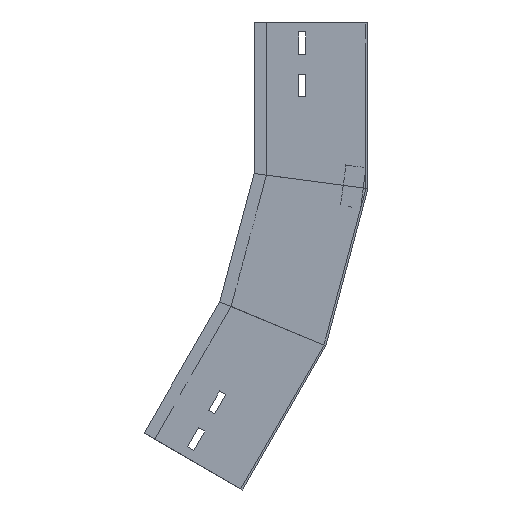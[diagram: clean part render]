
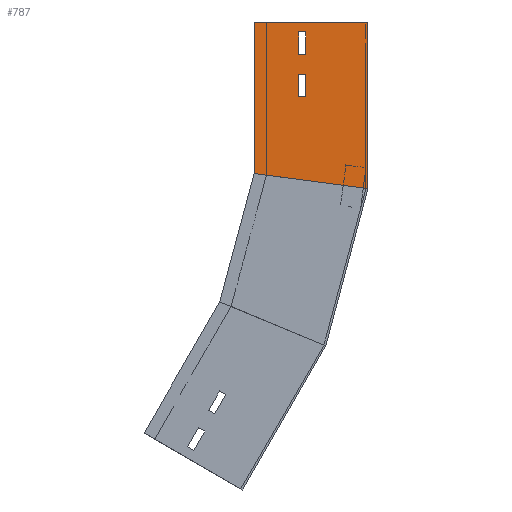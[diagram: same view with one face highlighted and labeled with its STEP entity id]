
A CAD part, left-side view. The second image highlights one B-rep face of the part: STEP entity #787.
In plain terms, the highlighted planar face has unit normal (-1, 0, 0) as drawn and (1, 0, 0) by its records, which use the part's own axes.
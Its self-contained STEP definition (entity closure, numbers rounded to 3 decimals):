
#4 = EDGE_CURVE ( 'NONE', #1121, #889, #846, .T. ) ;
#26 = VERTEX_POINT ( 'NONE', #1400 ) ;
#31 = CARTESIAN_POINT ( 'NONE',  ( 0., 139.072, -263.767 ) ) ;
#41 = LINE ( 'NONE', #31, #692 ) ;
#47 = EDGE_LOOP ( 'NONE', ( #1108, #472, #727, #397 ) ) ;
#97 = CARTESIAN_POINT ( 'NONE',  ( 0., 172.287, -423.298 ) ) ;
#107 = VECTOR ( 'NONE', #239, 1000. ) ;
#113 = VECTOR ( 'NONE', #869, 1000. ) ;
#119 = EDGE_CURVE ( 'NONE', #1042, #993, #1449, .T. ) ;
#125 = FACE_OUTER_BOUND ( 'NONE', #952, .T. ) ;
#126 = AXIS2_PLACEMENT_3D ( 'NONE', #565, #449, #673 ) ;
#129 = VERTEX_POINT ( 'NONE', #1433 ) ;
#132 = ORIENTED_EDGE ( 'NONE', *, *, #1248, .F. ) ;
#175 = LINE ( 'NONE', #1472, #113 ) ;
#196 = EDGE_CURVE ( 'NONE', #26, #1422, #281, .T. ) ;
#206 = VECTOR ( 'NONE', #1437, 1000. ) ;
#219 = EDGE_CURVE ( 'NONE', #500, #1042, #852, .T. ) ;
#226 = CARTESIAN_POINT ( 'NONE',  ( 0., 178.349, -419.798 ) ) ;
#228 = VECTOR ( 'NONE', #418, 1000. ) ;
#232 = FACE_BOUND ( 'NONE', #47, .T. ) ;
#238 = DIRECTION ( 'NONE',  ( 0., -0.866, -0.5 ) ) ;
#239 = DIRECTION ( 'NONE',  ( 0., 0.866, 0.5 ) ) ;
#256 = CARTESIAN_POINT ( 'NONE',  ( 0., 151.452, -387.211 ) ) ;
#262 = DIRECTION ( 'NONE',  ( 0., 0.5, -0.866 ) ) ;
#281 = LINE ( 'NONE', #1321, #206 ) ;
#288 = CARTESIAN_POINT ( 'NONE',  ( 0., 41.644, -320.017 ) ) ;
#299 = DIRECTION ( 'NONE',  ( 0., 0.5, -0.866 ) ) ;
#300 = ORIENTED_EDGE ( 'NONE', *, *, #555, .F. ) ;
#320 = DIRECTION ( 'NONE',  ( 0., 0.866, 0.5 ) ) ;
#349 = LINE ( 'NONE', #542, #487 ) ;
#358 = VECTOR ( 'NONE', #299, 1000. ) ;
#371 = ORIENTED_EDGE ( 'NONE', *, *, #1076, .F. ) ;
#397 = ORIENTED_EDGE ( 'NONE', *, *, #4, .F. ) ;
#400 = VERTEX_POINT ( 'NONE', #1487 ) ;
#405 = EDGE_CURVE ( 'NONE', #1215, #26, #567, .T. ) ;
#409 = CARTESIAN_POINT ( 'NONE',  ( 0., 151.452, -387.211 ) ) ;
#418 = DIRECTION ( 'NONE',  ( 0., 0.5, -0.866 ) ) ;
#430 = VECTOR ( 'NONE', #898, 1000. ) ;
#449 = DIRECTION ( 'NONE',  ( -1., 0., 0. ) ) ;
#472 = ORIENTED_EDGE ( 'NONE', *, *, #1415, .F. ) ;
#487 = VECTOR ( 'NONE', #238, 1000. ) ;
#500 = VERTEX_POINT ( 'NONE', #611 ) ;
#504 = ORIENTED_EDGE ( 'NONE', *, *, #219, .T. ) ;
#542 = CARTESIAN_POINT ( 'NONE',  ( 0., 167.349, -400.745 ) ) ;
#555 = EDGE_CURVE ( 'NONE', #500, #1186, #41, .T. ) ;
#565 = CARTESIAN_POINT ( 'NONE',  ( 0., 41.644, -320.017 ) ) ;
#567 = LINE ( 'NONE', #226, #808 ) ;
#611 = CARTESIAN_POINT ( 'NONE',  ( 0., 146.477, -276.594 ) ) ;
#627 = DIRECTION ( 'NONE',  ( 0., -0.924, -0.383 ) ) ;
#629 = CARTESIAN_POINT ( 'NONE',  ( 0., 172.287, -423.298 ) ) ;
#630 = ORIENTED_EDGE ( 'NONE', *, *, #196, .F. ) ;
#649 = VECTOR ( 'NONE', #1315, 1000. ) ;
#662 = EDGE_CURVE ( 'NONE', #889, #1412, #1355, .T. ) ;
#668 = DIRECTION ( 'NONE',  ( 0., 0.866, 0.5 ) ) ;
#673 = DIRECTION ( 'NONE',  ( 0., 0., 1. ) ) ;
#692 = VECTOR ( 'NONE', #262, 1000. ) ;
#725 = CARTESIAN_POINT ( 'NONE',  ( 0., 140.452, -368.158 ) ) ;
#727 = ORIENTED_EDGE ( 'NONE', *, *, #662, .F. ) ;
#744 = LINE ( 'NONE', #887, #1023 ) ;
#747 = CARTESIAN_POINT ( 'NONE',  ( 0., 146.514, -364.658 ) ) ;
#753 = CARTESIAN_POINT ( 'NONE',  ( 0., 41.644, -320.017 ) ) ;
#768 = CARTESIAN_POINT ( 'NONE',  ( 0., 146.514, -364.658 ) ) ;
#783 = CARTESIAN_POINT ( 'NONE',  ( 0., 123.944, -462.565 ) ) ;
#787 = ADVANCED_FACE ( 'NONE', ( #1376, #232, #125 ), #1054, .F. ) ;
#808 = VECTOR ( 'NONE', #668, 1000. ) ;
#813 = EDGE_CURVE ( 'NONE', #993, #1186, #939, .T. ) ;
#846 = LINE ( 'NONE', #747, #649 ) ;
#852 = LINE ( 'NONE', #1221, #1203 ) ;
#869 = DIRECTION ( 'NONE',  ( 0., -0.5, 0.866 ) ) ;
#887 = CARTESIAN_POINT ( 'NONE',  ( 0., 157.514, -383.711 ) ) ;
#889 = VERTEX_POINT ( 'NONE', #725 ) ;
#897 = CARTESIAN_POINT ( 'NONE',  ( 0., 221.372, -406.315 ) ) ;
#898 = DIRECTION ( 'NONE',  ( 0., 0.5, -0.866 ) ) ;
#917 = ORIENTED_EDGE ( 'NONE', *, *, #405, .F. ) ;
#939 = LINE ( 'NONE', #783, #107 ) ;
#952 = EDGE_LOOP ( 'NONE', ( #504, #1377, #1427, #300 ) ) ;
#977 = LINE ( 'NONE', #629, #358 ) ;
#993 = VERTEX_POINT ( 'NONE', #1414 ) ;
#1023 = VECTOR ( 'NONE', #320, 1000. ) ;
#1042 = VERTEX_POINT ( 'NONE', #753 ) ;
#1054 = PLANE ( 'NONE',  #126 ) ;
#1058 = EDGE_CURVE ( 'NONE', #400, #1121, #175, .T. ) ;
#1076 = EDGE_CURVE ( 'NONE', #129, #1215, #977, .T. ) ;
#1108 = ORIENTED_EDGE ( 'NONE', *, *, #1058, .F. ) ;
#1121 = VERTEX_POINT ( 'NONE', #768 ) ;
#1186 = VERTEX_POINT ( 'NONE', #897 ) ;
#1203 = VECTOR ( 'NONE', #627, 1000. ) ;
#1215 = VERTEX_POINT ( 'NONE', #97 ) ;
#1221 = CARTESIAN_POINT ( 'NONE',  ( 0., 61.047, -311.98 ) ) ;
#1235 = CARTESIAN_POINT ( 'NONE',  ( 0., 167.349, -400.745 ) ) ;
#1248 = EDGE_CURVE ( 'NONE', #1422, #129, #349, .T. ) ;
#1315 = DIRECTION ( 'NONE',  ( 0., -0.866, -0.5 ) ) ;
#1321 = CARTESIAN_POINT ( 'NONE',  ( 0., 178.349, -419.798 ) ) ;
#1355 = LINE ( 'NONE', #409, #430 ) ;
#1376 = FACE_BOUND ( 'NONE', #1445, .T. ) ;
#1377 = ORIENTED_EDGE ( 'NONE', *, *, #119, .T. ) ;
#1400 = CARTESIAN_POINT ( 'NONE',  ( 0., 178.349, -419.798 ) ) ;
#1412 = VERTEX_POINT ( 'NONE', #256 ) ;
#1414 = CARTESIAN_POINT ( 'NONE',  ( 0., 123.944, -462.565 ) ) ;
#1415 = EDGE_CURVE ( 'NONE', #1412, #400, #744, .T. ) ;
#1422 = VERTEX_POINT ( 'NONE', #1235 ) ;
#1427 = ORIENTED_EDGE ( 'NONE', *, *, #813, .T. ) ;
#1433 = CARTESIAN_POINT ( 'NONE',  ( 0., 161.287, -404.245 ) ) ;
#1437 = DIRECTION ( 'NONE',  ( 0., -0.5, 0.866 ) ) ;
#1445 = EDGE_LOOP ( 'NONE', ( #630, #917, #371, #132 ) ) ;
#1449 = LINE ( 'NONE', #288, #228 ) ;
#1472 = CARTESIAN_POINT ( 'NONE',  ( 0., 157.514, -383.711 ) ) ;
#1487 = CARTESIAN_POINT ( 'NONE',  ( 0., 157.514, -383.711 ) ) ;
